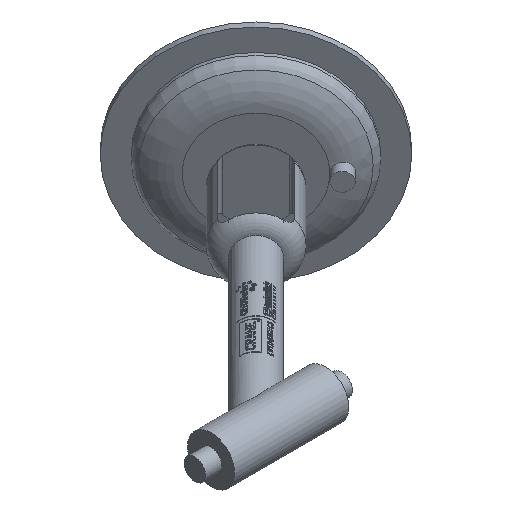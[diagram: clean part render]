
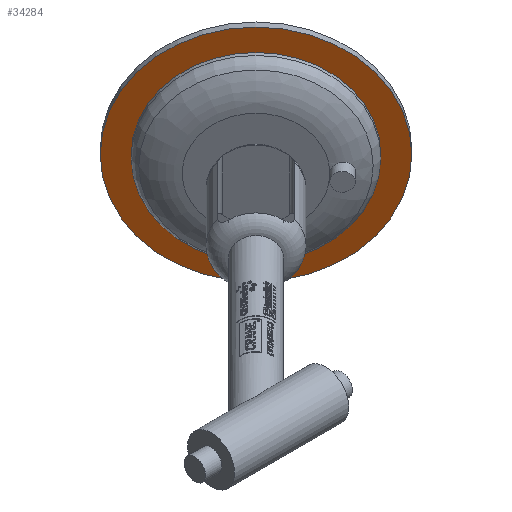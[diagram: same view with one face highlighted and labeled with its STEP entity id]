
A CAD part, isometric view. The second image highlights one B-rep face of the part: STEP entity #34284.
In plain terms, the highlighted planar face has unit normal (-0.707, -0.707, 0).
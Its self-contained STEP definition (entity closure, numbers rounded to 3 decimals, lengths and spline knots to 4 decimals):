
#4793 = DIRECTION ( 'NONE',  ( 0.707, 0.707, 0. ) ) ;
#5948 = EDGE_LOOP ( 'NONE', ( #8083 ) ) ;
#5991 = AXIS2_PLACEMENT_3D ( 'NONE', #25833, #10484, #26804 ) ;
#6416 = DIRECTION ( 'NONE',  ( 0.707, 0.707, 0. ) ) ;
#8063 = DIRECTION ( 'NONE',  ( 0., 0., 1. ) ) ;
#8083 = ORIENTED_EDGE ( 'NONE', *, *, #21382, .F. ) ;
#10484 = DIRECTION ( 'NONE',  ( -0.707, -0.707, 0. ) ) ;
#10961 = PLANE ( 'NONE',  #5991 ) ;
#12198 = VERTEX_POINT ( 'NONE', #43162 ) ;
#13061 = EDGE_CURVE ( 'NONE', #12198, #12198, #30250, .T. ) ;
#16125 = CIRCLE ( 'NONE', #38660, 6.75 ) ;
#21382 = EDGE_CURVE ( 'NONE', #29060, #29060, #16125, .T. ) ;
#24661 = AXIS2_PLACEMENT_3D ( 'NONE', #27425, #4793, #8063 ) ;
#25021 = CARTESIAN_POINT ( 'NONE',  ( 14.0738, 14.8238, 0. ) ) ;
#25439 = EDGE_LOOP ( 'NONE', ( #48400 ) ) ;
#25833 = CARTESIAN_POINT ( 'NONE',  ( 10.2518, 18.6458, 0. ) ) ;
#26804 = DIRECTION ( 'NONE',  ( 0., 0., -1. ) ) ;
#27425 = CARTESIAN_POINT ( 'NONE',  ( 14.0738, 14.8238, 0. ) ) ;
#29060 = VERTEX_POINT ( 'NONE', #36366 ) ;
#30250 = CIRCLE ( 'NONE', #24661, 5.4051 ) ;
#34284 = ADVANCED_FACE ( 'NONE', ( #49262, #45459 ), #10961, .T. ) ;
#36366 = CARTESIAN_POINT ( 'NONE',  ( 14.0738, 14.8238, 6.75 ) ) ;
#38660 = AXIS2_PLACEMENT_3D ( 'NONE', #25021, #6416, #44175 ) ;
#43162 = CARTESIAN_POINT ( 'NONE',  ( 14.0738, 14.8238, 5.4051 ) ) ;
#44175 = DIRECTION ( 'NONE',  ( 0., 0., 1. ) ) ;
#45459 = FACE_OUTER_BOUND ( 'NONE', #5948, .T. ) ;
#48400 = ORIENTED_EDGE ( 'NONE', *, *, #13061, .T. ) ;
#49262 = FACE_BOUND ( 'NONE', #25439, .T. ) ;
